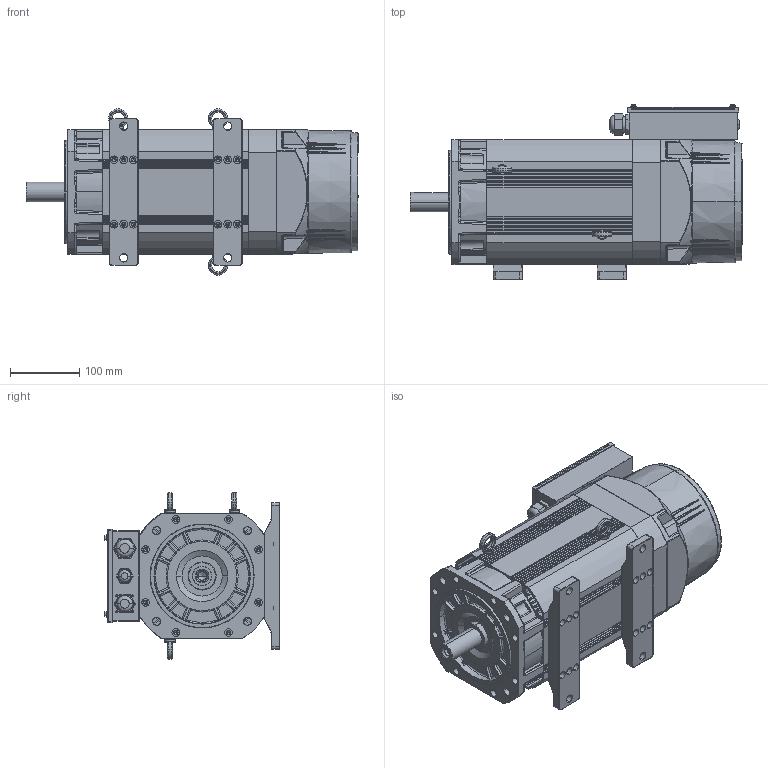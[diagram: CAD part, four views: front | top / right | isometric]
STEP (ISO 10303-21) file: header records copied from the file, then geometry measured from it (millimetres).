
FILE_DESCRIPTION (( 'STEP AP203' ), '1' );
FILE_NAME ('180L-B35-28J淕儂俋倛芞.STEP', '2022-04-15T06:10:35', ( '' ), ( '' ), 'SwSTEP 2.0', 'SolidWorks 2016', '' );
FILE_SCHEMA (( 'CONFIG_CONTROL_DESIGN' ));
Length unit declared in the file: millimetre
Products named in the file (26): UVW隅砱梓ワ; 晤鎢ん橈埽翐; 200风机过线圈; 180L-B35-28J淕儂俋倛芞; 180芧埽ヶ傷裔; 晤鎢ん啣; spring lock washers--normal type gb_GB_FASTENER_WASHER_SW 4; 200諉盄碟裔躇猾菜; 180L儂褲; cross recessed pan head screws gb_GB_CROSS_SCREWS_TYPE1 M4X5-5  H type-N; 180菁褐啣; 200諉盄碟裔; 200瑤脣ヶ堤盄諉盄碟; cross recessed pan head screws gb_GB_CROSS_SCREWS_TYPE1 M3X12-12  H type-N; 180呿蹋瑞欶; M20X1.5蹟杶; 200諉盄碟窒璃; M16X1.5蹟杶; M8X12裂遠; 綴裔; M24X1.5蹟杶; cross recessed cheese head screws gb_GB_CROSS_SCREWS_TYPE2 M4X10-10  H type-N; 180粣2.2kw-28J; 200諉盄翐; 晤鎢ん隅砱梓ワ; plain washers-n series-grade a gb_GB_FASTENER_WASHER_PWNA 4
Assembly tree (44 placements, depth 3):
  180L-B35-28J淕儂俋倛芞
    180L儂褲
    180芧埽ヶ傷裔
    綴裔
    180呿蹋瑞欶
    200諉盄碟窒璃
      200瑤脣ヶ堤盄諉盄碟
      M24X1.5蹟杶
      200风机过线圈
      M20X1.5蹟杶
      M16X1.5蹟杶
      200諉盄翐
      晤鎢ん橈埽翐  x4
      晤鎢ん啣
      200諉盄碟裔躇猾菜
      200諉盄碟裔
      UVW隅砱梓ワ
      晤鎢ん隅砱梓ワ
      cross recessed cheese head screws gb_GB_CROSS_SCREWS_TYPE2 M4X10-10  H type-N  x4
      spring lock washers--normal type gb_GB_FASTENER_WASHER_SW 4  x4
      plain washers-n series-grade a gb_GB_FASTENER_WASHER_PWNA 4  x4
      cross recessed pan head screws gb_GB_CROSS_SCREWS_TYPE1 M3X12-12  H type-N  x4
      cross recessed pan head screws gb_GB_CROSS_SCREWS_TYPE1 M4X5-5  H type-N  x2
    M8X12裂遠  x3
    180粣2.2kw-28J
    180菁褐啣  x2
Bounding box: 479 x 253.25 x 240 mm (x, y, z)
Volume: 3543617.6 mm3; surface area: 1219644.7 mm2
Topology: 43 solids, 43 shells, 3888 faces, 9820 edges, 6000 vertices
Faces by surface type: cylinder 1197, plane 897, bspline 861, cone 677, torus 176, sphere 80
Entity records: 129454 total; most frequent: CARTESIAN_POINT 46187, ORIENTED_EDGE 17354, DIRECTION 16493, EDGE_CURVE 8677, AXIS2_PLACEMENT_3D 6624, VERTEX_POINT 5354, CIRCLE 3947, EDGE_LOOP 3881
